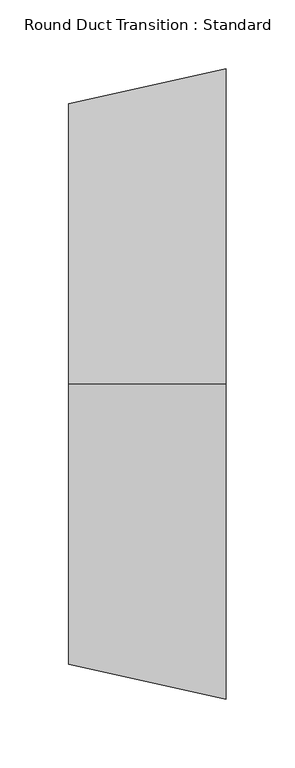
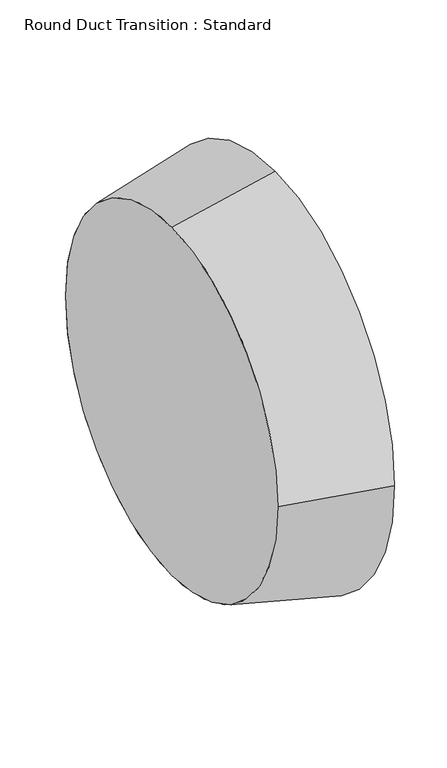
"""IFC4 building model written with IfcOpenShell, lengths in millimetres: duct fitting geometry, Round Duct Transition : Standard."""

from ifc_helpers import new_model, si_unit, frame, origin, place, context, project, spatial, polyline, circle_curve, source, transform, mapped, element, save
from ifc_brep_helpers import plane_surface, revolved_surface, advanced_brep


def round_duct_transition_standard_e72bc3ee(model_context):
    return source(origin(), model_context, "Body", "AdvancedBrep", [
        advanced_brep(
        [(114.3, -228.6, 0.0), (114.3, 0.0, -228.6), (114.3, 228.6, 0.0), (114.3, 0.0, 228.6), (0.0, -203.2, 0.0), (0.0, 0.0, 203.2), (0.0, 203.2, 0.0), (0.0, 0.0, -203.2)],
        [
            (0, 1, circle_curve(frame((114.3, 0.0, 0.0), z_axis=(1.0, 0.0, 0.0), x_axis=(0.0, -1.0, 0.0)), 228.6)),
            (1, 2, circle_curve(frame((114.3, 0.0, 0.0), z_axis=(1.0, 0.0, 0.0), x_axis=(0.0, 0.0, -1.0)), 228.6)),
            (2, 3, circle_curve(frame((114.3, 0.0, 0.0), z_axis=(1.0, 0.0, 0.0), x_axis=(0.0, 1.0, 0.0)), 228.6)),
            (3, 0, circle_curve(frame((114.3, 0.0, 0.0), z_axis=(1.0, 0.0, 0.0), x_axis=(0.0, 0.0, 1.0)), 228.6)),
            (4, 5, circle_curve(frame((0.0, 0.0, 0.0), z_axis=(-1.0, 0.0, 0.0), x_axis=(0.0, 0.0, 1.0)), 203.2)),
            (5, 6, circle_curve(frame((0.0, 0.0, 0.0), z_axis=(-1.0, 0.0, 0.0), x_axis=(0.0, 1.0, 0.0)), 203.2)),
            (6, 7, circle_curve(frame((0.0, 0.0, 0.0), z_axis=(-1.0, 0.0, 0.0), x_axis=(0.0, 0.0, -1.0)), 203.2)),
            (7, 4, circle_curve(frame((0.0, 0.0, 0.0), z_axis=(-1.0, 0.0, 0.0), x_axis=(0.0, -1.0, 0.0)), 203.2)),
            (7, 1),
            (0, 4),
            (6, 2),
            (5, 3),
        ],
        [
            plane_surface(frame((114.3, 0.0, 0.0), z_axis=(1.0, 0.0, 0.0), x_axis=(0.0, 0.0, -1.0))),
            plane_surface(frame((0.0, 0.0, 0.0), z_axis=(-1.0, 0.0, 0.0), x_axis=(0.0, 0.0, -1.0))),
            revolved_surface(polyline([(0.0, 0.0, -203.2), (114.30000000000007, 0.0, -228.6)]), (-914.4, 0.0, 0.0), (1.0, 0.0, 0.0)),
            revolved_surface(polyline([(0.0, 203.2, 0.0), (114.30000000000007, 228.6, 0.0)]), (-914.4, 0.0, 0.0), (1.0, 0.0, 0.0)),
            revolved_surface(polyline([(0.0, 0.0, 203.2), (114.30000000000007, 0.0, 228.6)]), (-914.4, 0.0, 0.0), (1.0, 0.0, 0.0)),
            revolved_surface(polyline([(0.0, -203.2, 0.0), (114.30000000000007, -228.6, 0.0)]), (-914.4, 0.0, 0.0), (1.0, 0.0, 0.0)),
        ],
        [
            (0, [[1, 2, 3, 4]]),
            (1, [[5, 6, 7, 8]]),
            (2, [[-8, 9, -1, 10]]),
            (3, [[-7, 11, -2, -9]]),
            (4, [[-6, 12, -3, -11]]),
            (5, [[-5, -10, -4, -12]]),
        ],
    ),
        advanced_brep(
        [(0.0, -203.2, 0.0), (0.0, 0.0, 203.2), (0.0, 203.2, 0.0), (0.0, 0.0, -203.2), (114.3, -228.6, 0.0), (114.3, 0.0, -228.6), (114.3, 228.6, 0.0), (114.3, 0.0, 228.6)],
        [
            (0, 1, circle_curve(frame((0.0, 0.0, 0.0), z_axis=(-1.0, 0.0, 0.0), x_axis=(0.0, -1.0, 0.0)), 203.2)),
            (1, 2, circle_curve(frame((0.0, 0.0, 0.0), z_axis=(-1.0, 0.0, 0.0), x_axis=(0.0, 0.0, 1.0)), 203.2)),
            (2, 3, circle_curve(frame((0.0, 0.0, 0.0), z_axis=(-1.0, 0.0, 0.0), x_axis=(0.0, 1.0, 0.0)), 203.2)),
            (3, 0, circle_curve(frame((0.0, 0.0, 0.0), z_axis=(-1.0, 0.0, 0.0), x_axis=(0.0, 0.0, -1.0)), 203.2)),
            (4, 5, circle_curve(frame((114.3, 0.0, 0.0), z_axis=(1.0, 0.0, 0.0), x_axis=(0.0, 0.0, -1.0)), 228.6)),
            (5, 6, circle_curve(frame((114.3, 0.0, 0.0), z_axis=(1.0, 0.0, 0.0), x_axis=(0.0, 1.0, 0.0)), 228.6)),
            (6, 7, circle_curve(frame((114.3, 0.0, 0.0), z_axis=(1.0, 0.0, 0.0), x_axis=(0.0, 0.0, 1.0)), 228.6)),
            (7, 4, circle_curve(frame((114.3, 0.0, 0.0), z_axis=(1.0, 0.0, 0.0), x_axis=(0.0, -1.0, 0.0)), 228.6)),
            (7, 1),
            (0, 4),
            (6, 2),
            (5, 3),
        ],
        [
            plane_surface(frame((0.0, 0.0, 0.0), z_axis=(-1.0, 0.0, 0.0), x_axis=(0.0, 0.0, -1.0))),
            plane_surface(frame((114.3, 0.0, 0.0), z_axis=(1.0, 0.0, 0.0), x_axis=(0.0, 0.0, -1.0))),
            revolved_surface(polyline([(0.0, -203.2, 0.0), (114.30000000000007, -228.6, 0.0)]), (-914.4, 0.0, 0.0), (1.0, 0.0, 0.0)),
            revolved_surface(polyline([(0.0, 0.0, 203.2), (114.30000000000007, 0.0, 228.6)]), (-914.4, 0.0, 0.0), (1.0, 0.0, 0.0)),
            revolved_surface(polyline([(0.0, 203.2, 0.0), (114.30000000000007, 228.6, 0.0)]), (-914.4, 0.0, 0.0), (1.0, 0.0, 0.0)),
            revolved_surface(polyline([(0.0, 0.0, -203.2), (114.30000000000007, 0.0, -228.6)]), (-914.4, 0.0, 0.0), (1.0, 0.0, 0.0)),
        ],
        [
            (0, [[1, 2, 3, 4]]),
            (1, [[5, 6, 7, 8]]),
            (2, [[-8, 9, -1, 10]]),
            (3, [[-7, 11, -2, -9]]),
            (4, [[-6, 12, -3, -11]]),
            (5, [[-5, -10, -4, -12]]),
        ],
    ),
        advanced_brep(
        [(114.3, -228.6, 0.0), (114.3, 228.6, 0.0), (0.0, -203.2, 0.0), (0.0, 203.2, 0.0)],
        [
            (0, 1, circle_curve(frame((114.3, 0.0, 0.0), z_axis=(1.0, 0.0, 0.0), x_axis=(0.0, -1.0, 0.0)), 228.6)),
            (1, 0, circle_curve(frame((114.3, 0.0, 0.0), z_axis=(1.0, 0.0, 0.0), x_axis=(0.0, 1.0, 0.0)), 228.6)),
            (2, 3, circle_curve(frame((0.0, 0.0, 0.0), z_axis=(-1.0, 0.0, 0.0), x_axis=(0.0, 1.0, 0.0)), 203.2)),
            (3, 2, circle_curve(frame((0.0, 0.0, 0.0), z_axis=(-1.0, 0.0, 0.0), x_axis=(0.0, -1.0, 0.0)), 203.2)),
            (3, 1),
            (0, 2),
        ],
        [
            plane_surface(frame((114.3, 0.0, 0.0), z_axis=(1.0, 0.0, 0.0), x_axis=(0.0, 0.0, -1.0))),
            plane_surface(frame((0.0, 0.0, 0.0), z_axis=(-1.0, 0.0, 0.0), x_axis=(0.0, 0.0, -1.0))),
            revolved_surface(polyline([(0.0, 203.2, 0.0), (114.30000000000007, 228.6, 0.0)]), (-914.4, 0.0, 0.0), (1.0, 0.0, 0.0)),
            revolved_surface(polyline([(0.0, -203.2, 0.0), (114.30000000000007, -228.6, 0.0)]), (-914.4, 0.0, 0.0), (1.0, 0.0, 0.0)),
        ],
        [
            (0, [[1, 2]]),
            (1, [[3, 4]]),
            (2, [[-4, 5, -1, 6]]),
            (3, [[-3, -6, -2, -5]]),
        ],
    ),
    ])


if __name__ == "__main__":
    model = new_model("IFC4")
    model_context = context("Model", 3, world=origin())
    ifc_project = project(units=[si_unit("LENGTHUNIT", "METRE", prefix="MILLI")], contexts=[model_context])
    site = spatial("IfcSite", under=ifc_project)
    building = spatial("IfcBuilding", under=site)
    placement = place(None, origin())
    round_duct_transition_standard_shape = round_duct_transition_standard_e72bc3ee(model_context)
    element("IfcDuctFitting", 1, ObjectType="Round Duct Transition : Standard", at=placement, inside=building, context=model_context, shape_type="MappedRepresentation", body=[
        mapped(round_duct_transition_standard_shape, transform((0.0, 0.0, 0.0), x_axis=(1.0, 0.0, 0.0), y_axis=(0.0, 1.0, 0.0), z_axis=(0.0, 0.0, 1.0))),
    ])
    save(model, "model.ifc")
